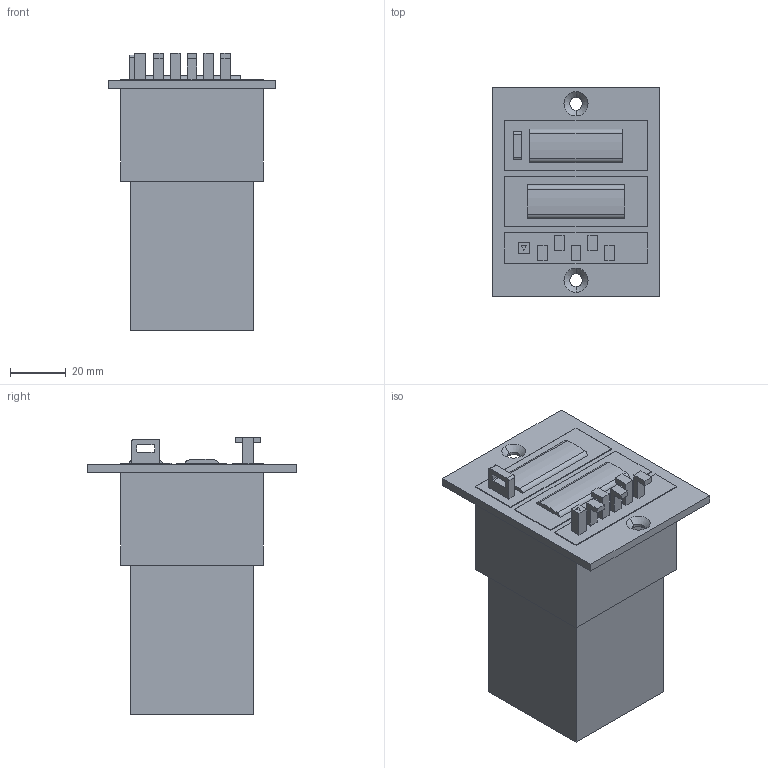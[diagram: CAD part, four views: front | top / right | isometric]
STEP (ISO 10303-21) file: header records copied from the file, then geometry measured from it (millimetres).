
FILE_DESCRIPTION((''),'2;1');
FILE_NAME('0821304017','2015-04-21T',('vol1hc'),(''),'PRO/ENGINEER BY PARAMETRIC TECHNOLOGY CORPORATION, 2009380','PRO/ENGINEER BY PARAMETRIC TECHNOLOGY CORPORATION, 2009380','');
FILE_SCHEMA(('CONFIG_CONTROL_DESIGN'));
Length unit declared in the file: millimetre
Products named in the file (1): 0821304017
Bounding box: 60 x 75 x 99.2 mm (x, y, z)
Volume: 204174 mm3; surface area: 28022.6 mm2
Topology: 1 solids, 1 shells, 123 faces, 299 edges, 198 vertices
Faces by surface type: plane 93, cylinder 26, cone 4
Entity records: 3647 total; most frequent: CARTESIAN_POINT 620, DIRECTION 601, ORIENTED_EDGE 598, EDGE_CURVE 299, VECTOR 243, LINE 243, VERTEX_POINT 198, AXIS2_PLACEMENT_3D 179
